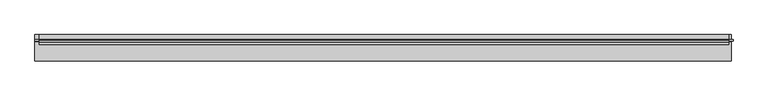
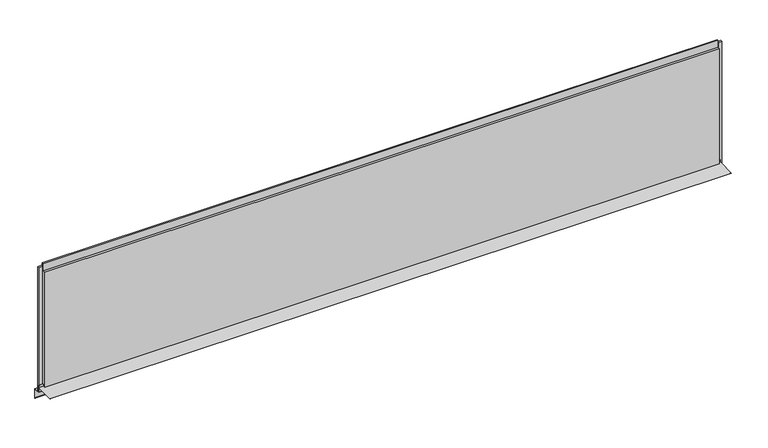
"""IFC4 building model written with IfcOpenShell, lengths in millimetres: plate geometry, Trimo_Qbiss Screen_Normal Panel-HORIZONTAL : HR - B."""

from ifc_helpers import new_model, si_unit, frame, origin, place, context, project, spatial, polyline, outline, extrude, source, transform, mapped, element, save


def plate_545d6f73(model_context):
    return source(origin(), model_context, "Body", "SweptSolid", [
        extrude(outline(polyline([(66.7, 14.0835797), (67.5, 14.0835797), (67.5, -23.0), (100.0, -25.8433816), (100.0, -76.0), (87.1509533, -63.1509533), (87.7166388, -62.5852679), (99.2, -74.0686292), (99.2, -26.5764465), (66.7, -23.7330649), (66.7, 1.0), (-32.5, 1.0), (-32.5, 1.8), (66.7, 1.8), (66.7, 14.0835797)])), frame((-1689.5, 0.0, 0.0), z_axis=(1.0, 0.0, 0.0), x_axis=(0.0, 1.0, 0.0)), (0.0, 0.0, 1.0), 3482.0),
        extrude(outline(polyline([(-1670.5, 76.5978162), (-1670.5, 67.8978162), (-1689.5, 67.8978162), (-1689.5, 76.5978162), (-1670.5, 76.5978162)])), frame((0.0, 0.0, -20.0), z_axis=(0.0, 0.0, 1.0), x_axis=(1.0, 0.0, 0.0)), (0.0, 0.0, 1.0), 669.0),
        extrude(outline(polyline([(1783.0, 67.8978162), (1783.0, 76.5978162), (1802.0, 76.5978162), (1802.0, 67.8978162), (1783.0, 67.8978162)])), frame((0.0, 0.0, -20.0), z_axis=(0.0, 0.0, 1.0), x_axis=(1.0, 0.0, 0.0)), (0.0, 0.0, 1.0), 669.0),
        extrude(outline(polyline([(1780.0, 76.0), (1780.0, 71.0), (-1667.5, 71.0), (-1667.5, 76.0), (1780.0, 76.0)])), frame((0.0, 0.0, 628.0), z_axis=(0.0, 0.0, 1.0), x_axis=(1.0, 0.0, 0.0)), (0.0, 0.0, 1.0), 21.0),
        extrude(outline(polyline([(71.0, 627.0), (100.0, 627.0), (100.0, 0.0), (72.0, 0.0), (72.0, 15.5), (62.0, 15.5), (62.0, 7.0), (50.0, 7.0), (50.0, 627.0), (63.0, 627.0), (63.0, 664.5), (71.0, 664.5), (71.0, 627.0)])), frame((-1667.5, 0.0, 0.0), z_axis=(1.0, 0.0, 0.0), x_axis=(0.0, 1.0, 0.0)), (0.0, 0.0, 1.0), 3447.5),
    ])


if __name__ == "__main__":
    model = new_model("IFC4")
    model_context = context("Model", 3, world=origin())
    ifc_project = project(units=[si_unit("LENGTHUNIT", "METRE", prefix="MILLI")], contexts=[model_context])
    site = spatial("IfcSite", under=ifc_project)
    building = spatial("IfcBuilding", under=site)
    placement = place(None, origin())
    plate_shape = plate_545d6f73(model_context)
    element("IfcPlate", 1, ObjectType="Trimo_Qbiss Screen_Normal Panel-HORIZONTAL : HR - B", at=placement, inside=building, context=model_context, shape_type="MappedRepresentation", body=[
        mapped(plate_shape, transform((0.0, 0.0, 0.0), x_axis=(1.0, 0.0, 0.0), y_axis=(0.0, 1.0, 0.0), z_axis=(0.0, 0.0, 1.0))),
    ])
    save(model, "model.ifc")
